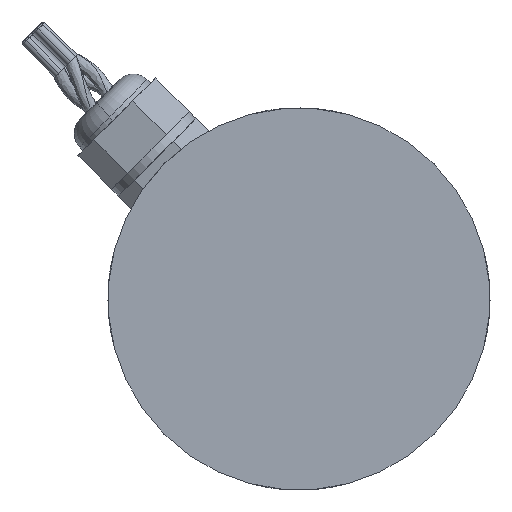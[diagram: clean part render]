
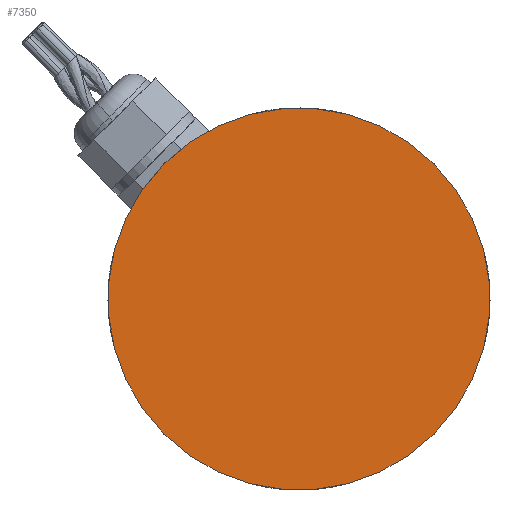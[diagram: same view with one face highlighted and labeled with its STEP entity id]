
A CAD part, left-side view. The second image highlights one B-rep face of the part: STEP entity #7350.
In plain terms, the highlighted planar face has unit normal (-1, 0, 0).
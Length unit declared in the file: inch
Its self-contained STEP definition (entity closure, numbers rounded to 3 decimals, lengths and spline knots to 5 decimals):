
#260 = CIRCLE ( 'NONE', #543, 2. ) ;
#543 = AXIS2_PLACEMENT_3D ( 'NONE', #4552, #1735, #9531 ) ;
#688 = CARTESIAN_POINT ( 'NONE',  ( -2.25027, 4.71916, 8.04765 ) ) ;
#1479 = AXIS2_PLACEMENT_3D ( 'NONE', #688, #6567, #2994 ) ;
#1735 = DIRECTION ( 'NONE',  ( 1., 0., 0. ) ) ;
#2225 = EDGE_CURVE ( 'NONE', #5360, #6506, #260, .T. ) ;
#2532 = EDGE_CURVE ( 'NONE', #6506, #5360, #6561, .T. ) ;
#2994 = DIRECTION ( 'NONE',  ( 0., -0.707, 0.707 ) ) ;
#4289 = FACE_OUTER_BOUND ( 'NONE', #12122, .T. ) ;
#4552 = CARTESIAN_POINT ( 'NONE',  ( -2.25027, 4.71916, 8.04765 ) ) ;
#5054 = CARTESIAN_POINT ( 'NONE',  ( -2.25027, 6.13337, 6.63344 ) ) ;
#5360 = VERTEX_POINT ( 'NONE', #8298 ) ;
#6506 = VERTEX_POINT ( 'NONE', #5054 ) ;
#6561 = CIRCLE ( 'NONE', #1479, 2. ) ;
#6567 = DIRECTION ( 'NONE',  ( 1., 0., 0. ) ) ;
#7350 = ADVANCED_FACE ( 'NONE', ( #4289 ), #8258, .F. ) ;
#7425 = ORIENTED_EDGE ( 'NONE', *, *, #2225, .F. ) ;
#8258 = PLANE ( 'NONE',  #12530 ) ;
#8298 = CARTESIAN_POINT ( 'NONE',  ( -2.25027, 3.30494, 9.46186 ) ) ;
#9531 = DIRECTION ( 'NONE',  ( 0., -0.707, 0.707 ) ) ;
#9614 = DIRECTION ( 'NONE',  ( 0., -0.707, 0.707 ) ) ;
#11842 = DIRECTION ( 'NONE',  ( 1., 0., 0. ) ) ;
#12122 = EDGE_LOOP ( 'NONE', ( #14565, #7425 ) ) ;
#12530 = AXIS2_PLACEMENT_3D ( 'NONE', #15312, #11842, #9614 ) ;
#14565 = ORIENTED_EDGE ( 'NONE', *, *, #2532, .F. ) ;
#15312 = CARTESIAN_POINT ( 'NONE',  ( -2.25027, 4.71916, 8.04765 ) ) ;
